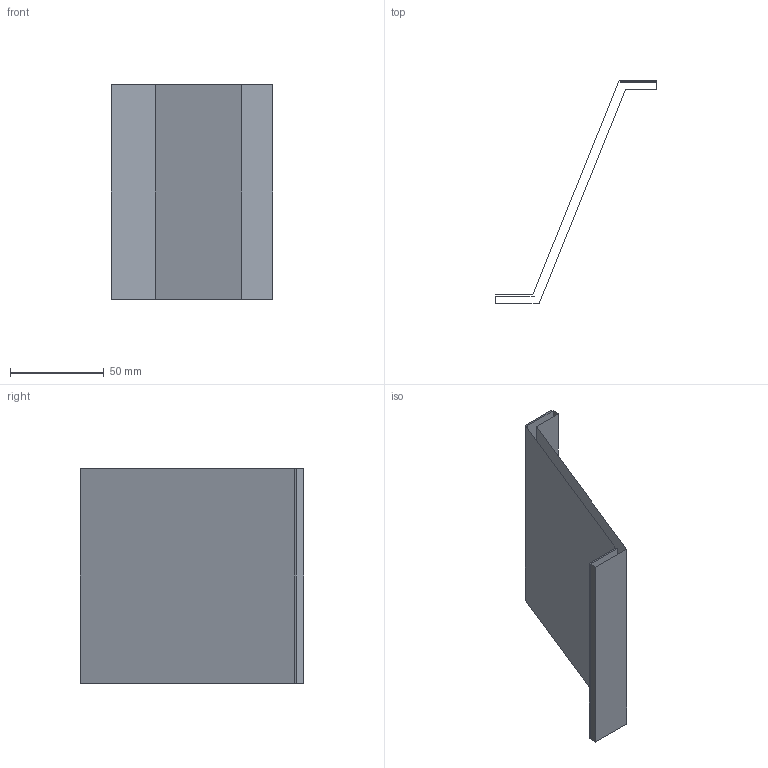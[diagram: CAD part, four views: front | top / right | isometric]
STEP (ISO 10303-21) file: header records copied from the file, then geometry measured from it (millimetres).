
FILE_DESCRIPTION(('CATIA V5 STEP Exchange'),'2;1');
FILE_NAME('C:\_Andres\UNIVERSIDAD\IQS\ASIGNATURAS\DAO\EXF\EXF-16172c\2inicio\Homs_Menis_Ej06_v14.stp','2017-03-05T21:01:24+00:00',('none'),('none'),'CATIA Version 5-6 Release 2014 SP1 HF18','CATIA V5 STEP AP203','none');
FILE_SCHEMA(('CONFIG_CONTROL_DESIGN'));
Length unit declared in the file: millimetre
Products named in the file (1): Homs_Menis_Ej06_v14
Bounding box: 86 x 119 x 114 mm (x, y, z)
Surface area: 42620.2 mm2 (no closed solid volume)
Topology: 0 solids, 2 shells, 10 faces, 42 edges, 36 vertices
Faces by surface type: plane 10
Entity records: 461 total; most frequent: CARTESIAN_POINT 100, DIRECTION 59, ORIENTED_EDGE 40, VECTOR 39, LINE 39, EDGE_CURVE 32, VERTEX_POINT 24, AXIS2_PLACEMENT_3D 11
